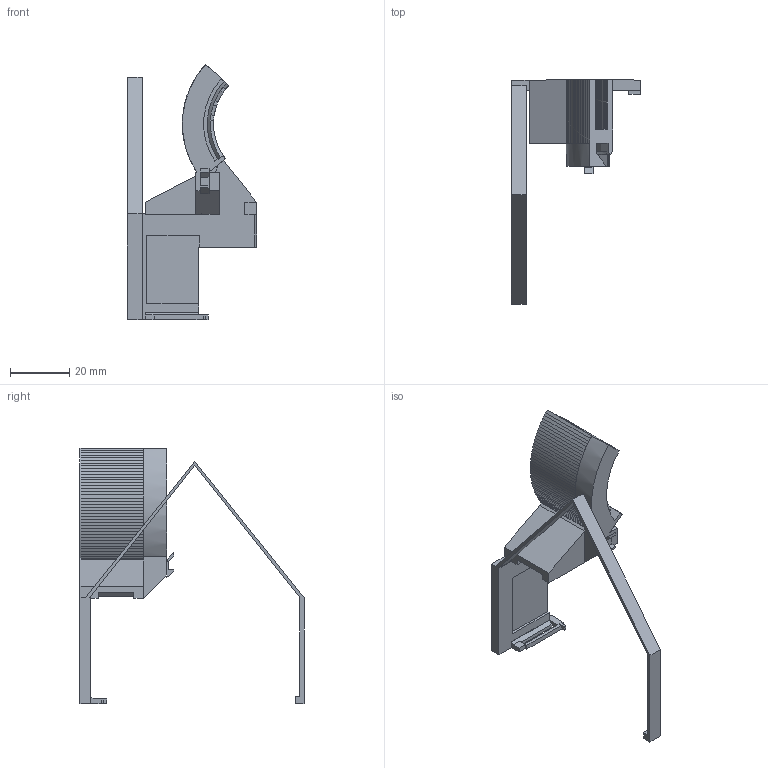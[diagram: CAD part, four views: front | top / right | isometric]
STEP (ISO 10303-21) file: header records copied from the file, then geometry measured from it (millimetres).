
FILE_DESCRIPTION(('Open CASCADE Model'),'2;1');
FILE_NAME('Open CASCADE Shape Model','2026-10-14T01:09:44',('Author'),( 'Open CASCADE'),'Open CASCADE STEP processor 8.0','build123d', 'Unknown');
FILE_SCHEMA(('AUTOMOTIVE_DESIGN { 1 0 10303 214 1 1 1 1 }'));
Length unit declared in the file: millimetre
Products named in the file (1): SOLID
Bounding box: 43.5 x 75.45 x 86.02 mm (x, y, z)
Volume: 16214.5 mm3; surface area: 11686.9 mm2
Topology: 1 solids, 1 shells, 386 faces, 1000 edges, 616 vertices
Faces by surface type: plane 371, cylinder 9, cone 6
Entity records: 24374 total; most frequent: CARTESIAN_POINT 4550, DIRECTION 3598, LINE 2570, VECTOR 2570, ORIENTED_EDGE 2000, PCURVE 2000, DEFINITIONAL_REPRESENTATION 2000, EDGE_CURVE 1000
